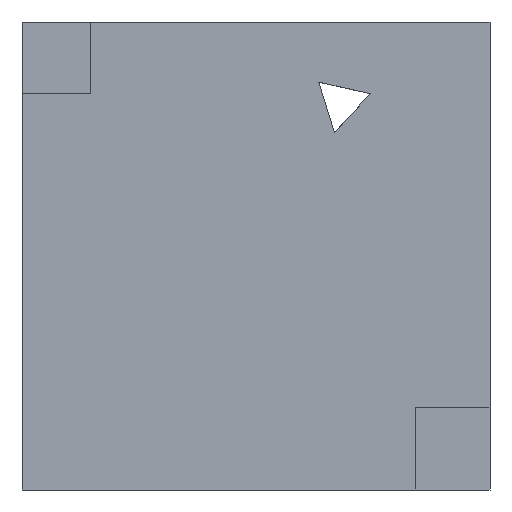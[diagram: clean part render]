
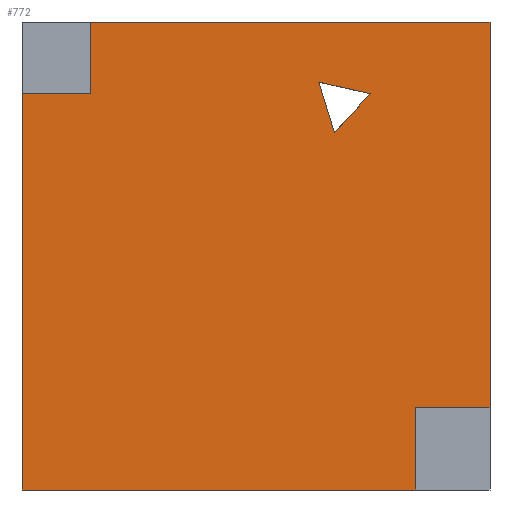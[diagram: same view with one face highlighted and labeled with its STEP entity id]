
A CAD part, left-side view. The second image highlights one B-rep face of the part: STEP entity #772.
In plain terms, the highlighted planar face has unit normal (-1, 0, 0).
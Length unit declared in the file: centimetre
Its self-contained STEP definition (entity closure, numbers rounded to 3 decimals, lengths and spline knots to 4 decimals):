
#10 = ORIENTED_EDGE ( 'NONE', *, *, #61, .F. ) ;
#48 = LINE ( 'NONE', #641, #956 ) ;
#55 = VECTOR ( 'NONE', #869, 100. ) ;
#58 = DIRECTION ( 'NONE',  ( 0., 0.975, 0.222 ) ) ;
#61 = EDGE_CURVE ( 'NONE', #896, #1167, #624, .T. ) ;
#83 = VERTEX_POINT ( 'NONE', #418 ) ;
#99 = CARTESIAN_POINT ( 'NONE',  ( 0., 1000., 1000. ) ) ;
#120 = EDGE_LOOP ( 'NONE', ( #931, #1027, #1131 ) ) ;
#134 = CARTESIAN_POINT ( 'NONE',  ( 0., 0., 176.2739 ) ) ;
#167 = DIRECTION ( 'NONE',  ( 0., -1., 0. ) ) ;
#215 = DIRECTION ( 'NONE',  ( 1., 0., 0. ) ) ;
#216 = VERTEX_POINT ( 'NONE', #544 ) ;
#266 = EDGE_CURVE ( 'NONE', #490, #83, #1280, .T. ) ;
#309 = CARTESIAN_POINT ( 'NONE',  ( 0., 0., 1000. ) ) ;
#310 = LINE ( 'NONE', #766, #620 ) ;
#345 = VECTOR ( 'NONE', #441, 100. ) ;
#356 = EDGE_CURVE ( 'NONE', #1167, #490, #456, .T. ) ;
#360 = DIRECTION ( 'NONE',  ( 0., -0.296, -0.955 ) ) ;
#381 = DIRECTION ( 'NONE',  ( 0., -0.68, 0.734 ) ) ;
#417 = VECTOR ( 'NONE', #997, 100. ) ;
#418 = CARTESIAN_POINT ( 'NONE',  ( 0., 158.5803, 0. ) ) ;
#430 = ORIENTED_EDGE ( 'NONE', *, *, #1328, .F. ) ;
#434 = DIRECTION ( 'NONE',  ( 0., 0., -1. ) ) ;
#441 = DIRECTION ( 'NONE',  ( 0., 1., 0. ) ) ;
#456 = LINE ( 'NONE', #1021, #345 ) ;
#467 = EDGE_CURVE ( 'NONE', #1481, #954, #1278, .T. ) ;
#472 = ORIENTED_EDGE ( 'NONE', *, *, #266, .F. ) ;
#490 = VERTEX_POINT ( 'NONE', #1296 ) ;
#493 = CARTESIAN_POINT ( 'NONE',  ( 0., 365.7382, 871.663 ) ) ;
#509 = DIRECTION ( 'NONE',  ( 0., -1., 0. ) ) ;
#528 = CARTESIAN_POINT ( 'NONE',  ( 0., 1000., 0. ) ) ;
#541 = CARTESIAN_POINT ( 'NONE',  ( 0., 255.6736, 846.6349 ) ) ;
#544 = CARTESIAN_POINT ( 'NONE',  ( 0., 1000., 848.1342 ) ) ;
#546 = EDGE_CURVE ( 'NONE', #685, #1481, #663, .T. ) ;
#550 = VERTEX_POINT ( 'NONE', #648 ) ;
#557 = PLANE ( 'NONE',  #1487 ) ;
#603 = LINE ( 'NONE', #887, #55 ) ;
#617 = EDGE_CURVE ( 'NONE', #216, #550, #310, .T. ) ;
#620 = VECTOR ( 'NONE', #1227, 100. ) ;
#624 = LINE ( 'NONE', #1090, #417 ) ;
#641 = CARTESIAN_POINT ( 'NONE',  ( 0., 853.5685, 848.1342 ) ) ;
#643 = EDGE_CURVE ( 'NONE', #550, #83, #654, .T. ) ;
#648 = CARTESIAN_POINT ( 'NONE',  ( 0., 1000., 0. ) ) ;
#654 = LINE ( 'NONE', #528, #909 ) ;
#659 = VECTOR ( 'NONE', #58, 100. ) ;
#663 = LINE ( 'NONE', #1129, #659 ) ;
#685 = VERTEX_POINT ( 'NONE', #541 ) ;
#706 = CARTESIAN_POINT ( 'NONE',  ( 0., 365.7382, 871.663 ) ) ;
#733 = CARTESIAN_POINT ( 'NONE',  ( 0., 332.3808, 763.8302 ) ) ;
#759 = CARTESIAN_POINT ( 'NONE',  ( 0., 158.5803, 0. ) ) ;
#766 = CARTESIAN_POINT ( 'NONE',  ( 0., 1000., 1000. ) ) ;
#772 = ADVANCED_FACE ( 'NONE', ( #1033, #1480 ), #557, .F. ) ;
#867 = CARTESIAN_POINT ( 'NONE',  ( 0., 1000., 1000. ) ) ;
#869 = DIRECTION ( 'NONE',  ( 0., 0., 1. ) ) ;
#887 = CARTESIAN_POINT ( 'NONE',  ( 0., 853.5685, 848.1342 ) ) ;
#892 = CARTESIAN_POINT ( 'NONE',  ( 0., 853.5685, 848.1342 ) ) ;
#896 = VERTEX_POINT ( 'NONE', #309 ) ;
#905 = VECTOR ( 'NONE', #381, 100. ) ;
#909 = VECTOR ( 'NONE', #167, 100. ) ;
#922 = ORIENTED_EDGE ( 'NONE', *, *, #617, .T. ) ;
#928 = DIRECTION ( 'NONE',  ( 0., 0., -1. ) ) ;
#931 = ORIENTED_EDGE ( 'NONE', *, *, #546, .F. ) ;
#936 = ORIENTED_EDGE ( 'NONE', *, *, #1259, .F. ) ;
#954 = VERTEX_POINT ( 'NONE', #1134 ) ;
#956 = VECTOR ( 'NONE', #1184, 100. ) ;
#974 = CARTESIAN_POINT ( 'NONE',  ( 0., 853.5685, 1000. ) ) ;
#997 = DIRECTION ( 'NONE',  ( 0., 0., -1. ) ) ;
#1002 = VECTOR ( 'NONE', #928, 100. ) ;
#1021 = CARTESIAN_POINT ( 'NONE',  ( 0., 0., 176.2739 ) ) ;
#1027 = ORIENTED_EDGE ( 'NONE', *, *, #1081, .F. ) ;
#1033 = FACE_BOUND ( 'NONE', #120, .T. ) ;
#1035 = VERTEX_POINT ( 'NONE', #892 ) ;
#1042 = EDGE_LOOP ( 'NONE', ( #1389, #472, #1473, #10, #1080, #936, #430, #922 ) ) ;
#1077 = VECTOR ( 'NONE', #509, 100. ) ;
#1080 = ORIENTED_EDGE ( 'NONE', *, *, #1231, .F. ) ;
#1081 = EDGE_CURVE ( 'NONE', #954, #685, #1402, .T. ) ;
#1090 = CARTESIAN_POINT ( 'NONE',  ( 0., 0., 1000. ) ) ;
#1123 = VECTOR ( 'NONE', #360, 100. ) ;
#1129 = CARTESIAN_POINT ( 'NONE',  ( 0., 255.6736, 846.6349 ) ) ;
#1131 = ORIENTED_EDGE ( 'NONE', *, *, #467, .F. ) ;
#1134 = CARTESIAN_POINT ( 'NONE',  ( 0., 332.3808, 763.8302 ) ) ;
#1167 = VERTEX_POINT ( 'NONE', #134 ) ;
#1184 = DIRECTION ( 'NONE',  ( 0., -1., 0. ) ) ;
#1227 = DIRECTION ( 'NONE',  ( 0., 0., -1. ) ) ;
#1231 = EDGE_CURVE ( 'NONE', #1245, #896, #1437, .T. ) ;
#1245 = VERTEX_POINT ( 'NONE', #974 ) ;
#1259 = EDGE_CURVE ( 'NONE', #1035, #1245, #603, .T. ) ;
#1278 = LINE ( 'NONE', #493, #1123 ) ;
#1280 = LINE ( 'NONE', #759, #1002 ) ;
#1296 = CARTESIAN_POINT ( 'NONE',  ( 0., 158.5803, 176.2739 ) ) ;
#1328 = EDGE_CURVE ( 'NONE', #216, #1035, #48, .T. ) ;
#1389 = ORIENTED_EDGE ( 'NONE', *, *, #643, .T. ) ;
#1402 = LINE ( 'NONE', #733, #905 ) ;
#1437 = LINE ( 'NONE', #867, #1077 ) ;
#1473 = ORIENTED_EDGE ( 'NONE', *, *, #356, .F. ) ;
#1480 = FACE_OUTER_BOUND ( 'NONE', #1042, .T. ) ;
#1481 = VERTEX_POINT ( 'NONE', #706 ) ;
#1487 = AXIS2_PLACEMENT_3D ( 'NONE', #99, #215, #434 ) ;
